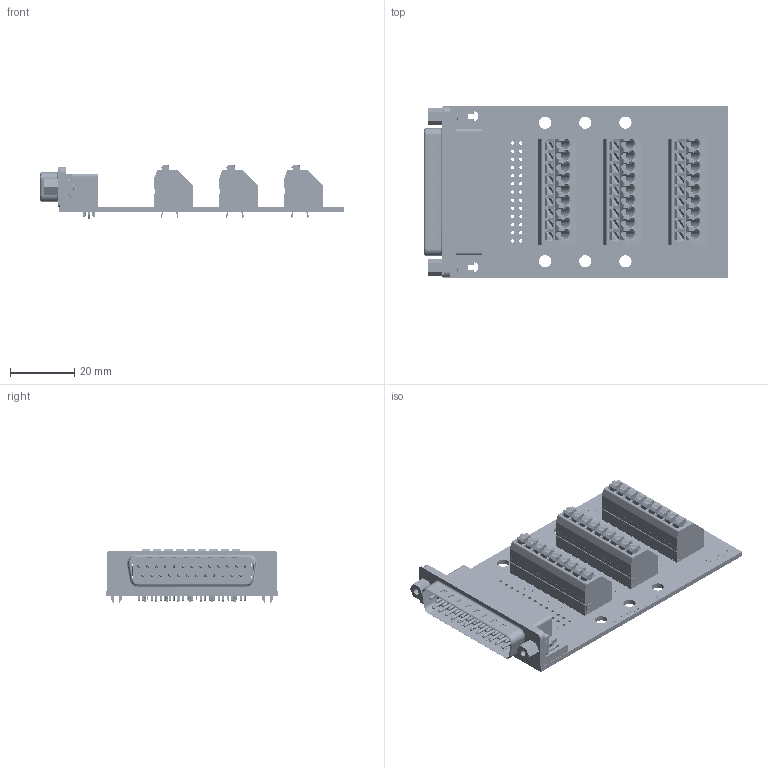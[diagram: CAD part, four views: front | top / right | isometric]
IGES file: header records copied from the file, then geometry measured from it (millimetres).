
Start section: SolidWorks IGES file using analytic representation for surfaces
Global section: file name: C:\Users\Jonny\Documents\Winford Engineering Jobs\BRKG25\BRKG25M\brkg25m-r-n_rev_a.igs; native system: SolidWorks 2017; preprocessor: SolidWorks 2017; author: Jonny; date: 171008.190356; units: inch
Bounding box: 94.67 x 53.34 x 16.9 mm (x, y, z)
Volume: 23574.8 mm3; surface area: 29049.1 mm2
Topology: 187 solids, 187 shells, 9461 faces, 25329 edges, 16217 vertices
Faces by surface type: plane 4473, bspline 2734, revolution 2254
